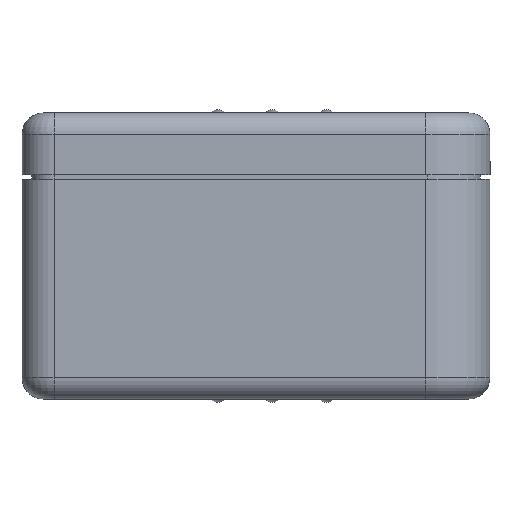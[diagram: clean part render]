
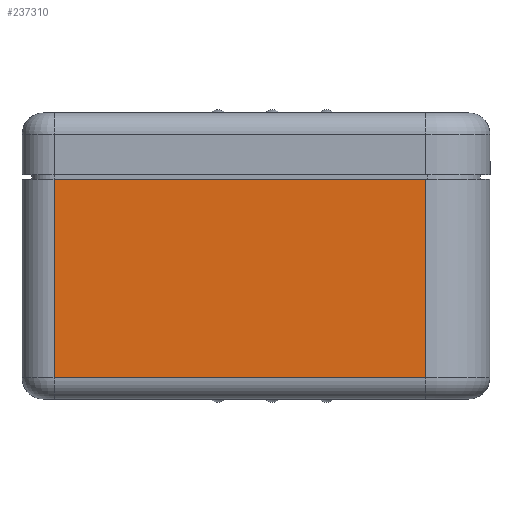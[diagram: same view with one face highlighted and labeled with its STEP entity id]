
A CAD part, front view. The second image highlights one B-rep face of the part: STEP entity #237310.
In plain terms, the highlighted planar face has unit normal (0, -1, 0).
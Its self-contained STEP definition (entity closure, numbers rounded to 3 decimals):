
#236600=CARTESIAN_POINT('',(-13.372,16.997,
8.625));
#236610=VERTEX_POINT('',#236600);
#236860=CARTESIAN_POINT('',(4.038,16.997,
8.625));
#236870=VERTEX_POINT('',#236860);
#236920=CARTESIAN_POINT('',(-0.006,16.997,
8.625));
#236930=DIRECTION('',(-1.,0.,0.));
#236940=VECTOR('',#236930,1.);
#236950=LINE('',#236920,#236940);
#236960=EDGE_CURVE('',#236870,#236610,#236950,.T.);
#237010=CARTESIAN_POINT('',(-8.316,16.997,
17.501));
#237020=DIRECTION('',(0.,1.,0.));
#237030=DIRECTION('',(-1.,0.,0.));
#237040=AXIS2_PLACEMENT_3D('',#237010,#237020,#237030);
#237050=PLANE('',#237040);
#237060=CARTESIAN_POINT('',(-13.372,16.997,
28.55));
#237070=DIRECTION('',(0.,0.,1.));
#237080=VECTOR('',#237070,1.);
#237090=LINE('',#237060,#237080);
#237100=CARTESIAN_POINT('',(-13.372,16.997,17.925));
#237110=VERTEX_POINT('',#237100);
#237120=EDGE_CURVE('',#236610,#237110,#237090,.T.);
#237130=ORIENTED_EDGE('',*,*,#237120,.F.);
#237140=CARTESIAN_POINT('',(0.,16.997,
17.925));
#237150=DIRECTION('',(1.,0.,0.));
#237160=VECTOR('',#237150,1.);
#237170=LINE('',#237140,#237160);
#237180=CARTESIAN_POINT('',(4.038,16.997,17.925));
#237190=VERTEX_POINT('',#237180);
#237200=EDGE_CURVE('',#237110,#237190,#237170,.T.);
#237210=ORIENTED_EDGE('',*,*,#237200,.F.);
#237220=CARTESIAN_POINT('',(4.038,16.997,
28.55));
#237230=DIRECTION('',(0.,0.,-1.));
#237240=VECTOR('',#237230,1.);
#237250=LINE('',#237220,#237240);
#237260=EDGE_CURVE('',#237190,#236870,#237250,.T.);
#237270=ORIENTED_EDGE('',*,*,#237260,.F.);
#237280=ORIENTED_EDGE('',*,*,#236960,.F.);
#237290=EDGE_LOOP('',(#237280,#237270,#237210,#237130));
#237300=FACE_OUTER_BOUND('',#237290,.T.);
#237310=ADVANCED_FACE('',(#237300),#237050,.F.);
